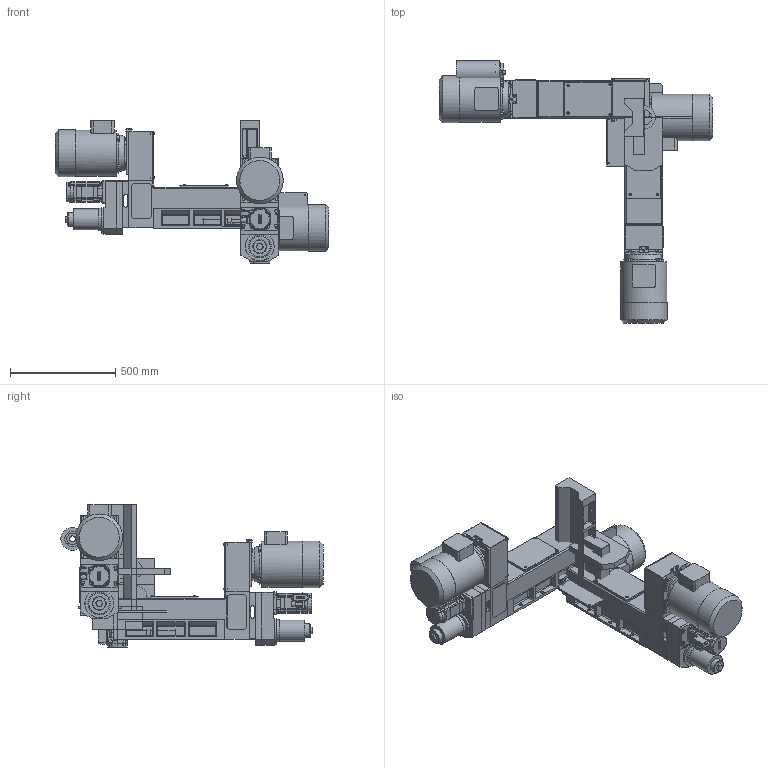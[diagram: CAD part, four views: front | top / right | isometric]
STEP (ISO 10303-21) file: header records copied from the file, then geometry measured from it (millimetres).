
FILE_DESCRIPTION( ( 'STEP AP203' ), '1' );
FILE_NAME( 'C:/Documents and Settings/Saverio/Desktop/disegni ironcad/unità serie 3/F 340 CN/FM 340 CN.stp', '2013-11-29T11:08:06', ( ' ' ), ( ' ' ), 'XStep 1.0', ' ', ' ' );
FILE_SCHEMA( ( 'CONFIG_CONTROL_DESIGN' ) );
Length unit declared in the file: metre
Products named in the file (54): Assem1; Assem2; Assem3; 1; 2; 3; 4; 5; 6; 7; 8; 9; 10; 11; 12; 13; 14; 15; 16; 17; 18; 19; 20; 21; 22; 23; 24; 25; 26; 27; 28; 29; 30; 31; 32; 33; 34; 35; 36; 37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
Bounding box: 1300.5 x 1245.96 x 678.5 mm (x, y, z)
Volume: 115162641.8 mm3; surface area: 8224175.7 mm2
Topology: 153 solids, 153 shells, 4890 faces, 11709 edges, 7227 vertices
Faces by surface type: plane 2742, cylinder 1005, cone 495, bspline 372, sphere 189, torus 87
Full cylindrical faces by diameter (mm): 5 x24, 6 x27, 6.5 x45, 6.637 x12, 6.647 x12, 8 x12, 8.366 x3, 9.87 x9, 10 x12, 10.25 x12, 10.5 x6, 14.5 x18, 19 x3, 20 x6, 22 x3, 22.4 x3, 24 x3, 25 x3, 28 x6, 36.4 x3, 41 x3, 46 x3, 50 x3, 55 x3, 66 x3, 70 x3, 73 x3, 74 x6, 76 x3, 80 x3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
Entity records: 61064 total; most frequent: CARTESIAN_POINT 23144, ORIENTED_EDGE 7158, DIRECTION 7096, EDGE_CURVE 3579, AXIS2_PLACEMENT_3D 2499, VERTEX_POINT 2345, LINE 2098, VECTOR 2098
